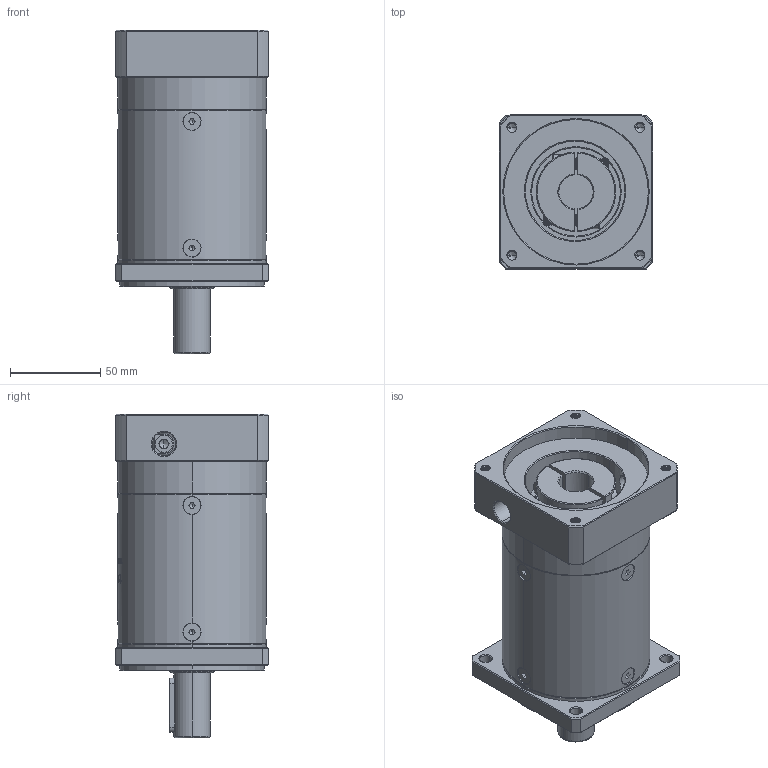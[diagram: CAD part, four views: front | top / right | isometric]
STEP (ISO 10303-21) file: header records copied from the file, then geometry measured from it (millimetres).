
FILE_DESCRIPTION (( 'STEP AP214' ), '1' );
FILE_NAME ('ZF80-D20-L3-19-80-100-M6.step', '2022-05-08T09:16:26', ( '' ), ( 'Microsoft' ), 'SwSTEP 2.0', 'SolidWorks 2016', '' );
FILE_SCHEMA (( 'AUTOMOTIVE_DESIGN' ));
Length unit declared in the file: millimetre
Products named in the file (1): ZF80-D20-L3-19-80-100-M6
Bounding box: 85 x 85 x 179 mm (x, y, z)
Volume: 740649.1 mm3; surface area: 99037.2 mm2
Topology: 13 solids, 13 shells, 1980 faces, 5113 edges, 3227 vertices
Faces by surface type: plane 896, cylinder 408, cone 339, bspline 320, torus 17
Entity records: 107669 total; most frequent: CARTESIAN_POINT 41269, ORIENTED_EDGE 10166, DIRECTION 8013, EDGE_CURVE 5083, VERTEX_POINT 3227, VECTOR 2763, LINE 2763, AXIS2_PLACEMENT_3D 2625
